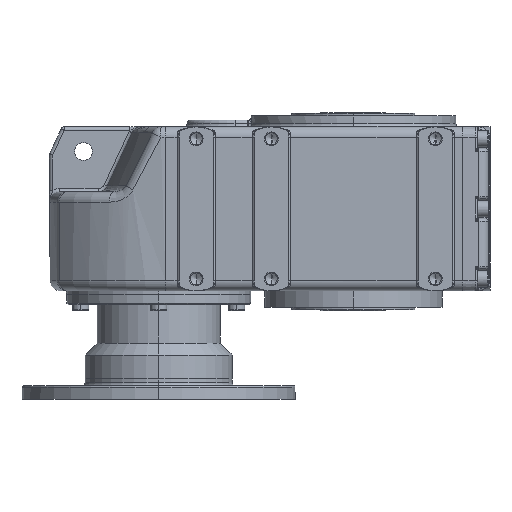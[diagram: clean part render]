
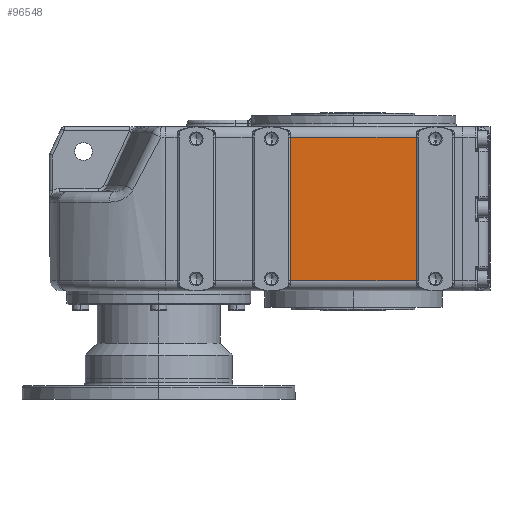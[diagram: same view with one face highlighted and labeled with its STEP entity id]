
A CAD part, left-side view. The second image highlights one B-rep face of the part: STEP entity #96548.
In plain terms, the highlighted planar face has unit normal (-1, 0, 0).
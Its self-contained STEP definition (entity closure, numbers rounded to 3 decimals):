
#96217 = EDGE_CURVE ( 'NONE', #96222, #96224, #106697, .T. ) ;
#96222 = VERTEX_POINT ( 'NONE', #106689 ) ;
#96224 = VERTEX_POINT ( 'NONE', #106686 ) ;
#96302 = VERTEX_POINT ( 'NONE', #106941 ) ;
#96310 = EDGE_CURVE ( 'NONE', #96315, #96302, #106935, .T. ) ;
#96315 = VERTEX_POINT ( 'NONE', #106913 ) ;
#96548 = ADVANCED_FACE ( 'NONE', ( #107663 ), #107659, .F. ) ;
#96551 = EDGE_LOOP ( 'NONE', ( #96553, #96556, #96719, #96721 ) ) ;
#96553 = ORIENTED_EDGE ( 'NONE', *, *, #96310, .T. ) ;
#96556 = ORIENTED_EDGE ( 'NONE', *, *, #96559, .T. ) ;
#96559 = EDGE_CURVE ( 'NONE', #96302, #96222, #107648, .T. ) ;
#96719 = ORIENTED_EDGE ( 'NONE', *, *, #96217, .T. ) ;
#96721 = ORIENTED_EDGE ( 'NONE', *, *, #96724, .T. ) ;
#96724 = EDGE_CURVE ( 'NONE', #96224, #96315, #108052, .T. ) ;
#106686 = CARTESIAN_POINT ( 'NONE',  ( -197.5, 92.042, 225. ) ) ;
#106689 = CARTESIAN_POINT ( 'NONE',  ( -197.5, -92.042, 225. ) ) ;
#106691 = DIRECTION ( 'NONE',  ( 0., 1., 0. ) ) ;
#106693 = VECTOR ( 'NONE', #106691, 1000. ) ;
#106695 = CARTESIAN_POINT ( 'NONE',  ( -197.5, 275., 225. ) ) ;
#106697 = LINE ( 'NONE', #106695, #106693 ) ;
#106913 = CARTESIAN_POINT ( 'NONE',  ( -197.5, 92.042, 15. ) ) ;
#106916 = DIRECTION ( 'NONE',  ( 0., -1., 0. ) ) ;
#106917 = VECTOR ( 'NONE', #106916, 1000. ) ;
#106919 = CARTESIAN_POINT ( 'NONE',  ( -197.5, 275., 15. ) ) ;
#106935 = LINE ( 'NONE', #106919, #106917 ) ;
#106941 = CARTESIAN_POINT ( 'NONE',  ( -197.5, -92.042, 15. ) ) ;
#107642 = DIRECTION ( 'NONE',  ( 0., 0., 1. ) ) ;
#107644 = VECTOR ( 'NONE', #107642, 1000. ) ;
#107646 = CARTESIAN_POINT ( 'NONE',  ( -197.5, -92.042, 240. ) ) ;
#107648 = LINE ( 'NONE', #107646, #107644 ) ;
#107652 = DIRECTION ( 'NONE',  ( 0., 1., 0. ) ) ;
#107654 = DIRECTION ( 'NONE',  ( 1., 0., 0. ) ) ;
#107656 = CARTESIAN_POINT ( 'NONE',  ( -197.5, 275., 240. ) ) ;
#107658 = AXIS2_PLACEMENT_3D ( 'NONE', #107656, #107654, #107652 ) ;
#107659 = PLANE ( 'NONE',  #107658 ) ;
#107663 = FACE_OUTER_BOUND ( 'NONE', #96551, .T. ) ;
#108047 = DIRECTION ( 'NONE',  ( 0., 0., -1. ) ) ;
#108048 = VECTOR ( 'NONE', #108047, 1000. ) ;
#108051 = CARTESIAN_POINT ( 'NONE',  ( -197.5, 92.042, 240. ) ) ;
#108052 = LINE ( 'NONE', #108051, #108048 ) ;
